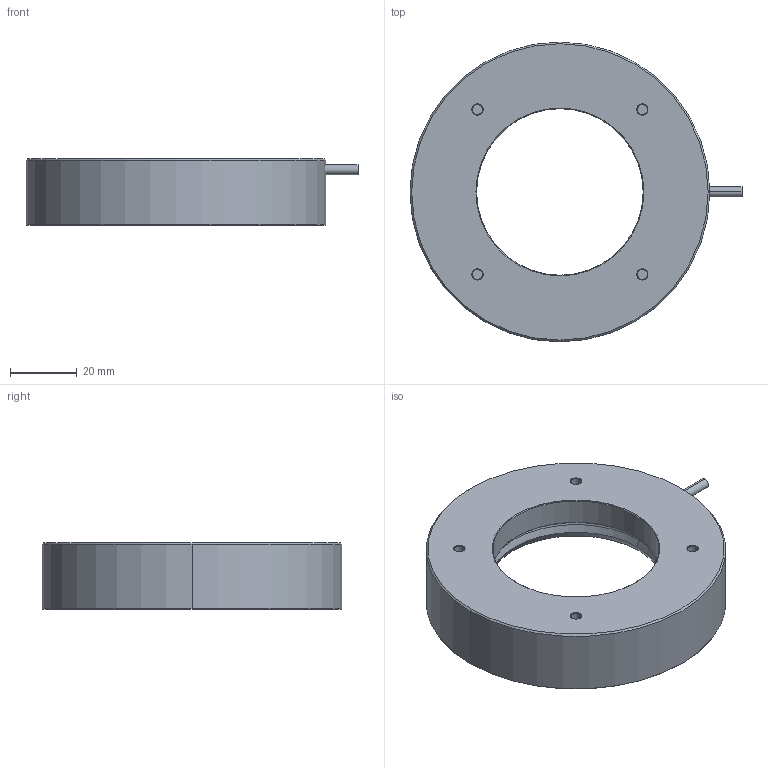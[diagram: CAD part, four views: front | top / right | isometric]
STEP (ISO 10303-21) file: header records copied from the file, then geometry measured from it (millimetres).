
FILE_DESCRIPTION(('STEP AP214'),'1');
FILE_NAME('C:/Users/VST CAD USER/Desktop/140127/DR5090/VL-DR5090 3D.step','2014-01-29T01:52:26',(' '),(' '),'Spatial InterOp 3D',' ',' ');
FILE_SCHEMA(('automotive_design'));
Length unit declared in the file: millimetre
Products named in the file (2): 1; 2
Bounding box: 99.67 x 90 x 20 mm (x, y, z)
Volume: 73342.5 mm3; surface area: 19180.5 mm2
Topology: 2 solids, 2 shells, 65 faces, 128 edges, 72 vertices
Faces by surface type: cone 40, cylinder 16, plane 9
Entity records: 1688 total; most frequent: DIRECTION 334, CARTESIAN_POINT 267, ORIENTED_EDGE 256, AXIS2_PLACEMENT_3D 139, EDGE_CURVE 128, EDGE_LOOP 72, VERTEX_POINT 72, CIRCLE 72
